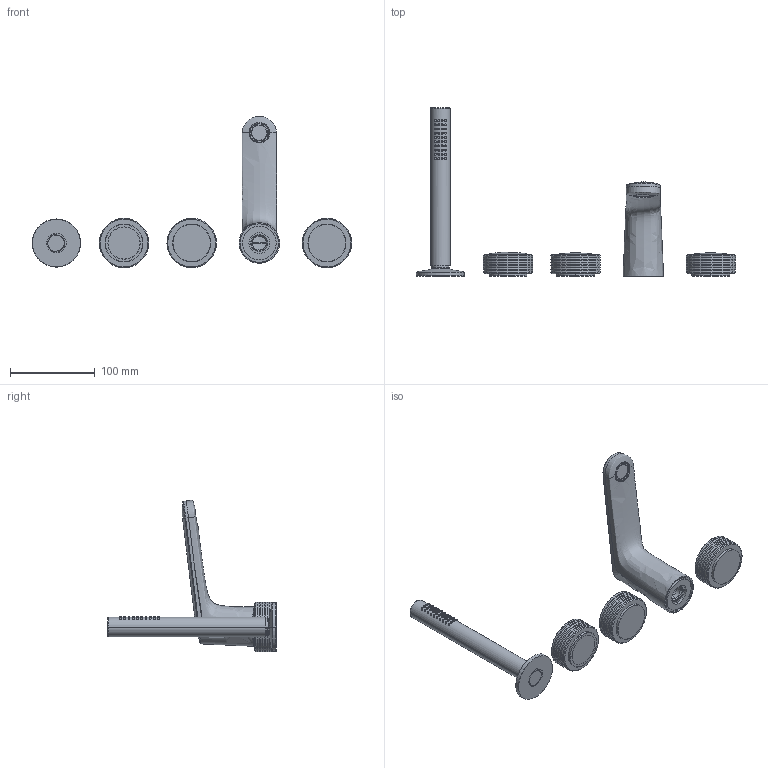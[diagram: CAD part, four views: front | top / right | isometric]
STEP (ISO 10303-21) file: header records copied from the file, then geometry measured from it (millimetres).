
FILE_DESCRIPTION((''),'2;1');
FILE_NAME('F5614_FILE_3D','2015-04-23T',('ivanv'),(''),'PRO/ENGINEER BY PARAMETRIC TECHNOLOGY CORPORATION, 2012130','PRO/ENGINEER BY PARAMETRIC TECHNOLOGY CORPORATION, 2012130','');
FILE_SCHEMA(('CONFIG_CONTROL_DESIGN'));
Length unit declared in the file: millimetre
Products named in the file (1): F5614_FILE_3D
Bounding box: 377.75 x 199 x 179.27 mm (x, y, z)
Volume: 389774.5 mm3; surface area: 108625 mm2
Topology: 5 solids, 6 shells, 4017 faces, 11887 edges, 7842 vertices
Faces by surface type: plane 3531, cylinder 236, cone 86, bspline 71, torus 60, sphere 26, extrusion 7
Entity records: 181899 total; most frequent: CARTESIAN_POINT 86324, ORIENTED_EDGE 23724, DIRECTION 13256, EDGE_CURVE 11862, VERTEX_POINT 7842, B_SPLINE_CURVE_WITH_KNOTS 7151, EDGE_LOOP 5134, AXIS2_PLACEMENT_3D 4592
